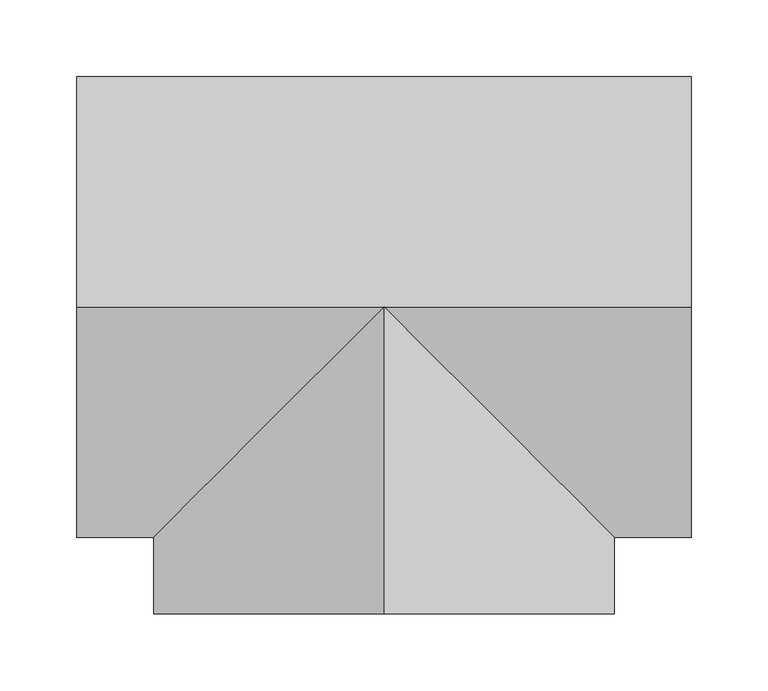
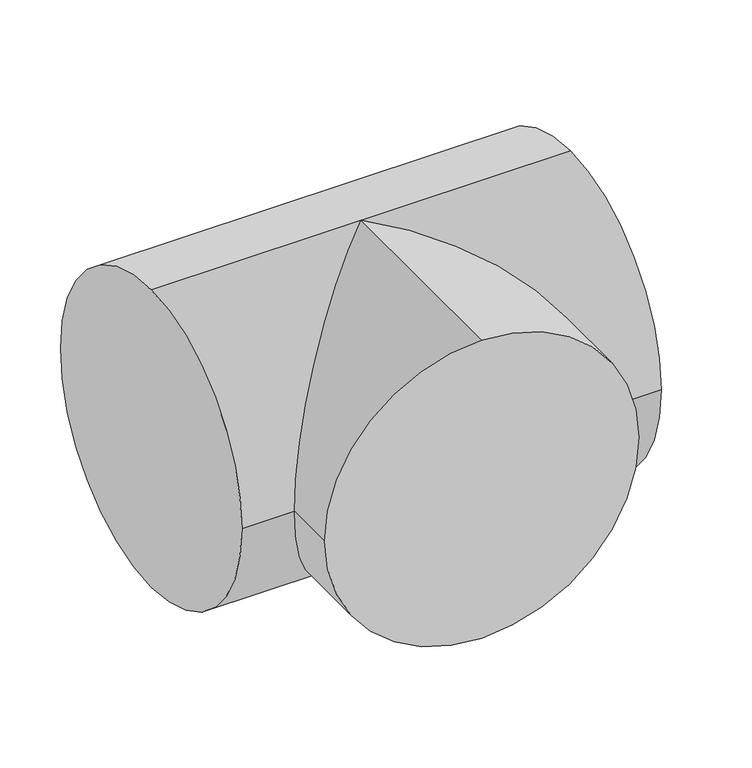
"""IFC4 building model written with IfcOpenShell, lengths in millimetres: duct fitting geometry, BL_ТройникВоздуховодов_Круглый-90 : Ниппельное соединение."""

from ifc_helpers import new_model, si_unit, frame, origin, place, context, project, spatial, circle_curve, ellipse_curve, source, transform, mapped, element, save
from ifc_brep_helpers import plane_surface, cylinder_surface, advanced_brep


def duct_fitting_c498028a(model_context):
    return source(origin(), model_context, "Body", "AdvancedBrep", [
        advanced_brep(
        [(0.0, -200.0, 150.0), (-150.0, -200.0, 0.0), (0.0, -200.0, -150.0), (150.0, -200.0, 0.0), (150.0, -150.0, 0.0), (0.0, 0.0, 150.0), (0.0, 0.0, -150.0), (-150.0, -150.0, 0.0), (-200.0, 0.0, 150.0), (-200.0, 150.0, 0.0), (-200.0, 0.0, -150.0), (-200.0, -150.0, 0.0), (200.0, 0.0, 150.0), (200.0, -150.0, 0.0), (200.0, 0.0, -150.0), (200.0, 150.0, 0.0)],
        [
            (0, 1, circle_curve(frame((0.0, -200.0, 0.0), z_axis=(0.0, -1.0, 0.0), x_axis=(1.0, 0.0, 0.0)), 150.0)),
            (1, 2, circle_curve(frame((0.0, -200.0, 0.0), z_axis=(0.0, -1.0, 0.0), x_axis=(1.0, 0.0, 0.0)), 150.0)),
            (2, 3, circle_curve(frame((0.0, -200.0, 0.0), z_axis=(0.0, -1.0, 0.0), x_axis=(1.0, 0.0, 0.0)), 150.0)),
            (3, 0, circle_curve(frame((0.0, -200.0, 0.0), z_axis=(0.0, -1.0, 0.0), x_axis=(1.0, 0.0, 0.0)), 150.0)),
            (3, 4),
            (4, 5, ellipse_curve(frame((0.0, 0.0, 0.0), z_axis=(-0.7071067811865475, -0.7071067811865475, 0.0), x_axis=(-0.7071067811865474, 0.7071067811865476, 0.0)), 212.1320344, 150.0)),
            (5, 0),
            (2, 6),
            (6, 4, ellipse_curve(frame((0.0, 0.0, 0.0), z_axis=(-0.7071067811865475, -0.7071067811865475, 0.0), x_axis=(-0.7071067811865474, 0.7071067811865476, 0.0)), 212.1320344, 150.0)),
            (1, 7),
            (7, 6, ellipse_curve(frame((0.0, 0.0, 0.0), z_axis=(0.7071067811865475, -0.7071067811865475, 0.0), x_axis=(0.7071067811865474, 0.7071067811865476, 0.0)), 212.1320344, 150.0)),
            (5, 7, ellipse_curve(frame((0.0, 0.0, 0.0), z_axis=(0.7071067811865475, -0.7071067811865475, 0.0), x_axis=(0.7071067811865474, 0.7071067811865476, 0.0)), 212.1320344, 150.0)),
            (8, 9, circle_curve(frame((-200.0, 0.0, 0.0), z_axis=(-1.0, 0.0, 0.0), x_axis=(0.0, 1.0, 0.0)), 150.0)),
            (9, 10, circle_curve(frame((-200.0, 0.0, 0.0), z_axis=(-1.0, 0.0, 0.0), x_axis=(0.0, 1.0, 0.0)), 150.0)),
            (10, 11, circle_curve(frame((-200.0, 0.0, 0.0), z_axis=(-1.0, 0.0, 0.0), x_axis=(0.0, 1.0, 0.0)), 150.0)),
            (11, 8, circle_curve(frame((-200.0, 0.0, 0.0), z_axis=(-1.0, 0.0, 0.0), x_axis=(0.0, 1.0, 0.0)), 150.0)),
            (12, 13, circle_curve(frame((200.0, 0.0, 0.0), z_axis=(1.0, 0.0, 0.0), x_axis=(0.0, 1.0, 0.0)), 150.0)),
            (13, 14, circle_curve(frame((200.0, 0.0, 0.0), z_axis=(1.0, 0.0, 0.0), x_axis=(0.0, 1.0, 0.0)), 150.0)),
            (14, 15, circle_curve(frame((200.0, 0.0, 0.0), z_axis=(1.0, 0.0, 0.0), x_axis=(0.0, 1.0, 0.0)), 150.0)),
            (15, 12, circle_curve(frame((200.0, 0.0, 0.0), z_axis=(1.0, 0.0, 0.0), x_axis=(0.0, 1.0, 0.0)), 150.0)),
            (8, 5),
            (5, 12),
            (15, 9),
            (14, 6),
            (6, 10),
            (7, 11),
            (13, 4),
        ],
        [
            plane_surface(frame((0.0, -200.0, 0.0), z_axis=(0.0, -1.0, 0.0), x_axis=(0.0, 0.0, 1.0))),
            cylinder_surface(frame((0.0, 0.0, 0.0), z_axis=(0.0, 1.0, 0.0), x_axis=(1.0, 0.0, 0.0)), 150.0),
            plane_surface(frame((-200.0, 0.0, 0.0), z_axis=(-1.0, 0.0, 0.0), x_axis=(0.0, 0.0, 1.0))),
            plane_surface(frame((200.0, 0.0, 0.0), z_axis=(1.0, 0.0, 0.0), x_axis=(0.0, 0.0, 1.0))),
            cylinder_surface(frame((-200.0, 0.0, 0.0), z_axis=(-1.0, 0.0, 0.0), x_axis=(0.0, 1.0, 0.0)), 150.0),
        ],
        [
            (0, [[1, 2, 3, 4]]),
            (1, [[-4, 5, 6, 7]]),
            (1, [[-3, 8, 9, -5]]),
            (1, [[-2, 10, 11, -8]]),
            (1, [[-1, -7, 12, -10]]),
            (2, [[13, 14, 15, 16]]),
            (3, [[17, 18, 19, 20]]),
            (4, [[-13, 21, 22, -20, 23]]),
            (4, [[-14, -23, -19, 24, 25]]),
            (4, [[-15, -25, -11, 26]]),
            (4, [[-18, 27, -9, -24]]),
            (4, [[-16, -26, -12, -21]]),
            (4, [[-17, -22, -6, -27]]),
        ],
    ),
    ])


if __name__ == "__main__":
    model = new_model("IFC4")
    model_context = context("Model", 3, world=origin())
    ifc_project = project(units=[si_unit("LENGTHUNIT", "METRE", prefix="MILLI")], contexts=[model_context])
    site = spatial("IfcSite", under=ifc_project)
    building = spatial("IfcBuilding", under=site)
    placement = place(None, origin())
    duct_fitting_shape = duct_fitting_c498028a(model_context)
    element("IfcDuctFitting", 1, ObjectType="BL_ТройникВоздуховодов_Круглый-90 : Ниппельное соединение", at=placement, inside=building, context=model_context, shape_type="MappedRepresentation", body=[
        mapped(duct_fitting_shape, transform((0.0, 0.0, 0.0), x_axis=(1.0, 0.0, 0.0), y_axis=(0.0, 1.0, 0.0), z_axis=(0.0, 0.0, 1.0))),
    ])
    save(model, "model.ifc")
